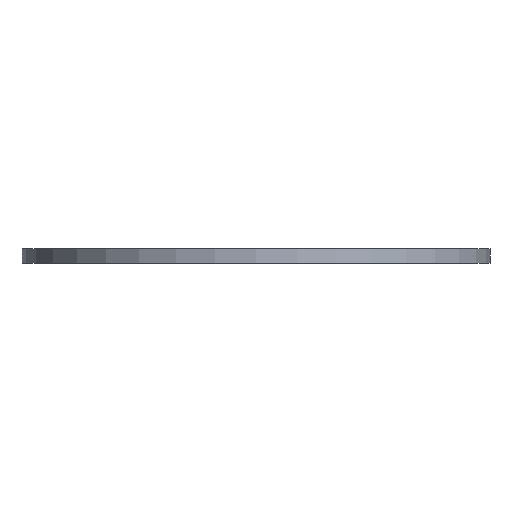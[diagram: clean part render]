
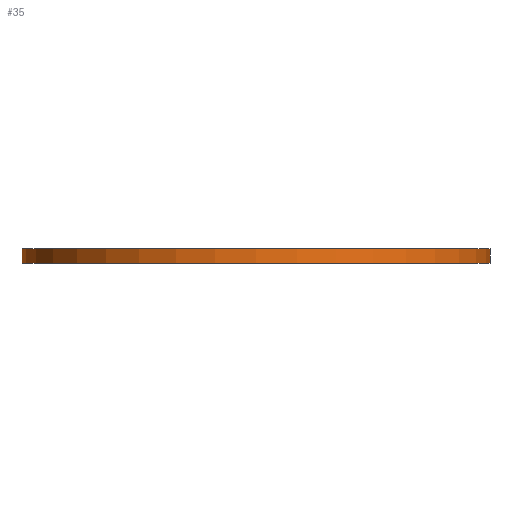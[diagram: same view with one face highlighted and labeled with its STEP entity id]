
A CAD part, front view. The second image highlights one B-rep face of the part: STEP entity #35.
In plain terms, the highlighted cylindrical face has radius 40 mm (diameter 80 mm), a full revolution.
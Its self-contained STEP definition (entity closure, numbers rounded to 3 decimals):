
#35 = ADVANCED_FACE('',(#36),#49,.T.);
#36 = FACE_BOUND('',#37,.T.);
#37 = EDGE_LOOP('',(#38,#72,#95,#122));
#38 = ORIENTED_EDGE('',*,*,#39,.F.);
#39 = EDGE_CURVE('',#40,#40,#42,.T.);
#40 = VERTEX_POINT('',#41);
#41 = CARTESIAN_POINT('',(40.,0.,1.2));
#42 = SURFACE_CURVE('',#43,(#48,#60),.PCURVE_S1.);
#43 = CIRCLE('',#44,40.);
#44 = AXIS2_PLACEMENT_3D('',#45,#46,#47);
#45 = CARTESIAN_POINT('',(0.,0.,1.2));
#46 = DIRECTION('',(0.,0.,1.));
#47 = DIRECTION('',(1.,0.,-0.));
#48 = PCURVE('',#49,#54);
#49 = CYLINDRICAL_SURFACE('',#50,40.);
#50 = AXIS2_PLACEMENT_3D('',#51,#52,#53);
#51 = CARTESIAN_POINT('',(0.,0.,-1.2));
#52 = DIRECTION('',(0.,0.,1.));
#53 = DIRECTION('',(1.,0.,-0.));
#54 = DEFINITIONAL_REPRESENTATION('',(#55),#59);
#55 = LINE('',#56,#57);
#56 = CARTESIAN_POINT('',(0.,2.4));
#57 = VECTOR('',#58,1.);
#58 = DIRECTION('',(1.,0.));
#59 = ( GEOMETRIC_REPRESENTATION_CONTEXT(2) 
PARAMETRIC_REPRESENTATION_CONTEXT() REPRESENTATION_CONTEXT('2D SPACE',''
  ) );
#60 = PCURVE('',#61,#66);
#61 = PLANE('',#62);
#62 = AXIS2_PLACEMENT_3D('',#63,#64,#65);
#63 = CARTESIAN_POINT('',(0.,0.,1.2));
#64 = DIRECTION('',(0.,0.,1.));
#65 = DIRECTION('',(1.,0.,-0.));
#66 = DEFINITIONAL_REPRESENTATION('',(#67),#71);
#67 = CIRCLE('',#68,40.);
#68 = AXIS2_PLACEMENT_2D('',#69,#70);
#69 = CARTESIAN_POINT('',(0.,0.));
#70 = DIRECTION('',(1.,0.));
#71 = ( GEOMETRIC_REPRESENTATION_CONTEXT(2) 
PARAMETRIC_REPRESENTATION_CONTEXT() REPRESENTATION_CONTEXT('2D SPACE',''
  ) );
#72 = ORIENTED_EDGE('',*,*,#73,.F.);
#73 = EDGE_CURVE('',#74,#40,#76,.T.);
#74 = VERTEX_POINT('',#75);
#75 = CARTESIAN_POINT('',(40.,0.,-1.2));
#76 = SEAM_CURVE('',#77,(#81,#88),.PCURVE_S1.);
#77 = LINE('',#78,#79);
#78 = CARTESIAN_POINT('',(40.,0.,-1.2));
#79 = VECTOR('',#80,1.);
#80 = DIRECTION('',(0.,0.,1.));
#81 = PCURVE('',#49,#82);
#82 = DEFINITIONAL_REPRESENTATION('',(#83),#87);
#83 = LINE('',#84,#85);
#84 = CARTESIAN_POINT('',(0.,0.));
#85 = VECTOR('',#86,1.);
#86 = DIRECTION('',(0.,1.));
#87 = ( GEOMETRIC_REPRESENTATION_CONTEXT(2) 
PARAMETRIC_REPRESENTATION_CONTEXT() REPRESENTATION_CONTEXT('2D SPACE',''
  ) );
#88 = PCURVE('',#49,#89);
#89 = DEFINITIONAL_REPRESENTATION('',(#90),#94);
#90 = LINE('',#91,#92);
#91 = CARTESIAN_POINT('',(6.283,0.));
#92 = VECTOR('',#93,1.);
#93 = DIRECTION('',(0.,1.));
#94 = ( GEOMETRIC_REPRESENTATION_CONTEXT(2) 
PARAMETRIC_REPRESENTATION_CONTEXT() REPRESENTATION_CONTEXT('2D SPACE',''
  ) );
#95 = ORIENTED_EDGE('',*,*,#96,.T.);
#96 = EDGE_CURVE('',#74,#74,#97,.T.);
#97 = SURFACE_CURVE('',#98,(#103,#110),.PCURVE_S1.);
#98 = CIRCLE('',#99,40.);
#99 = AXIS2_PLACEMENT_3D('',#100,#101,#102);
#100 = CARTESIAN_POINT('',(0.,0.,-1.2));
#101 = DIRECTION('',(0.,0.,1.));
#102 = DIRECTION('',(1.,0.,-0.));
#103 = PCURVE('',#49,#104);
#104 = DEFINITIONAL_REPRESENTATION('',(#105),#109);
#105 = LINE('',#106,#107);
#106 = CARTESIAN_POINT('',(0.,0.));
#107 = VECTOR('',#108,1.);
#108 = DIRECTION('',(1.,0.));
#109 = ( GEOMETRIC_REPRESENTATION_CONTEXT(2) 
PARAMETRIC_REPRESENTATION_CONTEXT() REPRESENTATION_CONTEXT('2D SPACE',''
  ) );
#110 = PCURVE('',#111,#116);
#111 = PLANE('',#112);
#112 = AXIS2_PLACEMENT_3D('',#113,#114,#115);
#113 = CARTESIAN_POINT('',(0.,0.,-1.2));
#114 = DIRECTION('',(0.,0.,1.));
#115 = DIRECTION('',(1.,0.,-0.));
#116 = DEFINITIONAL_REPRESENTATION('',(#117),#121);
#117 = CIRCLE('',#118,40.);
#118 = AXIS2_PLACEMENT_2D('',#119,#120);
#119 = CARTESIAN_POINT('',(0.,0.));
#120 = DIRECTION('',(1.,0.));
#121 = ( GEOMETRIC_REPRESENTATION_CONTEXT(2) 
PARAMETRIC_REPRESENTATION_CONTEXT() REPRESENTATION_CONTEXT('2D SPACE',''
  ) );
#122 = ORIENTED_EDGE('',*,*,#73,.T.);
